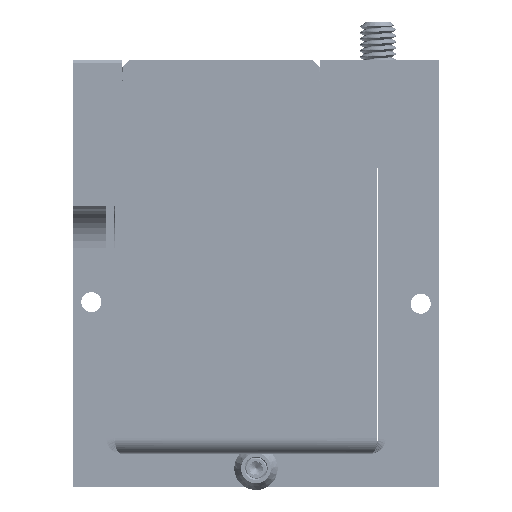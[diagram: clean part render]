
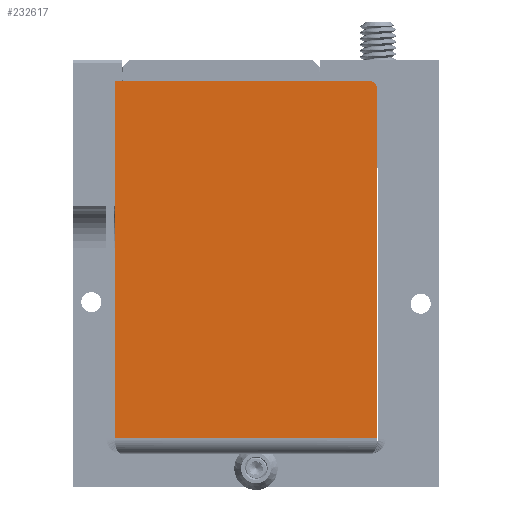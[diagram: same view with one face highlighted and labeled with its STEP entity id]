
A CAD part, left-side view. The second image highlights one B-rep face of the part: STEP entity #232617.
In plain terms, the highlighted planar face has unit normal (-1, 0, 0).
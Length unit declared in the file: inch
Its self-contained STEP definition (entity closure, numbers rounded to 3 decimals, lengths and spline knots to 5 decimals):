
#6271 = CARTESIAN_POINT ( 'NONE',  ( -2.9061, -0.36623, -2.4437 ) ) ;
#19478 = VERTEX_POINT ( 'NONE', #92124 ) ;
#28389 = VECTOR ( 'NONE', #81951, 39.37008 ) ;
#31550 = ORIENTED_EDGE ( 'NONE', *, *, #334803, .T. ) ;
#32818 = CARTESIAN_POINT ( 'NONE',  ( -2.9061, 1.2807, -2.4437 ) ) ;
#51047 = VERTEX_POINT ( 'NONE', #82643 ) ;
#64701 = CARTESIAN_POINT ( 'NONE',  ( -2.9061, -0.36623, -0.18677 ) ) ;
#81951 = DIRECTION ( 'NONE',  ( 0., 1., 0. ) ) ;
#82643 = CARTESIAN_POINT ( 'NONE',  ( -2.9061, -0.36623, -2.4437 ) ) ;
#86132 = VECTOR ( 'NONE', #328519, 39.37008 ) ;
#87204 = CARTESIAN_POINT ( 'NONE',  ( -2.9061, -0.36623, -0.13677 ) ) ;
#92124 = CARTESIAN_POINT ( 'NONE',  ( -2.9061, -0.31623, -0.13677 ) ) ;
#106747 = ORIENTED_EDGE ( 'NONE', *, *, #276734, .F. ) ;
#109702 = DIRECTION ( 'NONE',  ( 0., 0., 1. ) ) ;
#112260 = DIRECTION ( 'NONE',  ( -1., 0., 0. ) ) ;
#113474 = PLANE ( 'NONE',  #332753 ) ;
#114322 = DIRECTION ( 'NONE',  ( 0., 1., 0. ) ) ;
#130220 = CIRCLE ( 'NONE', #234226, 0.05 ) ;
#134275 = VECTOR ( 'NONE', #114322, 39.37008 ) ;
#135568 = CARTESIAN_POINT ( 'NONE',  ( -2.9061, -0.4233, -2.5437 ) ) ;
#141644 = CARTESIAN_POINT ( 'NONE',  ( -2.9061, 1.32363, -2.4437 ) ) ;
#159864 = CARTESIAN_POINT ( 'NONE',  ( -2.9061, -0.31623, -0.18677 ) ) ;
#164006 = LINE ( 'NONE', #6271, #295954 ) ;
#165110 = ORIENTED_EDGE ( 'NONE', *, *, #196444, .T. ) ;
#166056 = EDGE_CURVE ( 'NONE', #259282, #254801, #221570, .T. ) ;
#170445 = VERTEX_POINT ( 'NONE', #64701 ) ;
#178902 = CARTESIAN_POINT ( 'NONE',  ( -2.9061, 1.32363, -2.4437 ) ) ;
#196444 = EDGE_CURVE ( 'NONE', #170445, #19478, #130220, .T. ) ;
#202358 = EDGE_CURVE ( 'NONE', #51047, #170445, #164006, .T. ) ;
#221570 = LINE ( 'NONE', #141644, #86132 ) ;
#226270 = ORIENTED_EDGE ( 'NONE', *, *, #202358, .T. ) ;
#232617 = ADVANCED_FACE ( 'NONE', ( #268233 ), #113474, .F. ) ;
#234226 = AXIS2_PLACEMENT_3D ( 'NONE', #159864, #112260, #290734 ) ;
#240776 = ORIENTED_EDGE ( 'NONE', *, *, #166056, .F. ) ;
#244403 = DIRECTION ( 'NONE',  ( 1., 0., 0. ) ) ;
#254801 = VERTEX_POINT ( 'NONE', #258242 ) ;
#258242 = CARTESIAN_POINT ( 'NONE',  ( -2.9061, 1.32363, -0.13677 ) ) ;
#259282 = VERTEX_POINT ( 'NONE', #178902 ) ;
#265527 = LINE ( 'NONE', #32818, #28389 ) ;
#268233 = FACE_OUTER_BOUND ( 'NONE', #301636, .T. ) ;
#276734 = EDGE_CURVE ( 'NONE', #51047, #259282, #265527, .T. ) ;
#290734 = DIRECTION ( 'NONE',  ( 0., 0., 1. ) ) ;
#295954 = VECTOR ( 'NONE', #109702, 39.37008 ) ;
#301636 = EDGE_LOOP ( 'NONE', ( #226270, #165110, #31550, #240776, #106747 ) ) ;
#316579 = LINE ( 'NONE', #87204, #134275 ) ;
#320831 = DIRECTION ( 'NONE',  ( 0., 0., 1. ) ) ;
#328519 = DIRECTION ( 'NONE',  ( 0., 0., 1. ) ) ;
#332753 = AXIS2_PLACEMENT_3D ( 'NONE', #135568, #244403, #320831 ) ;
#334803 = EDGE_CURVE ( 'NONE', #19478, #254801, #316579, .T. ) ;
